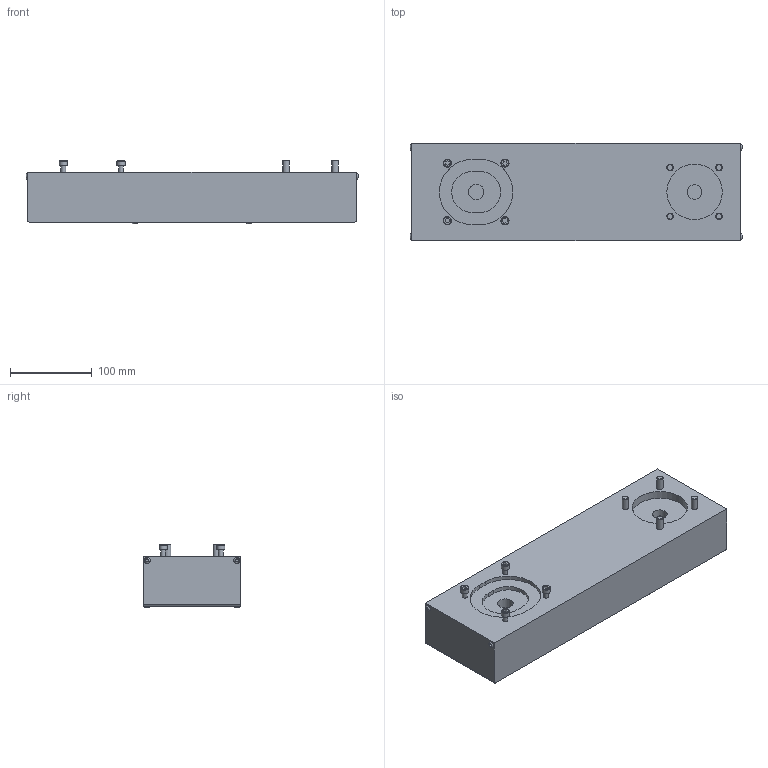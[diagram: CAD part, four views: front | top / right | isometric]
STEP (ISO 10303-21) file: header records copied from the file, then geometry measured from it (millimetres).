
FILE_DESCRIPTION(/* description */ (''),/* implementation_level */ '2;1');
FILE_NAME(/* name */ 'O:\LINEARNE ENOTE\STRANSKI POGON CTV\CTV 200 MTV 110\DUMMY MODELI\izvoz\MSD CTV 200 T1 1 84 X 84.stp',/* time_stamp */ '2019-04-24T08:20:40+02:00',/* author */ ('Hypex'),/* organization */ ('Hypex'),/* preprocessor_version */ 'ST-DEVELOPER v17',/* originating_system */ 'Autodesk Inventor 2018',/* authorisation */ '');
FILE_SCHEMA (('AUTOMOTIVE_DESIGN { 1 0 10303 214 3 1 1 }'));
Length unit declared in the file: millimetre
Products named in the file (1): MSD CTV 200 T1 1 84 X 84
Bounding box: 407.4 x 120 x 78.2 mm (x, y, z)
Volume: 2852891.5 mm3; surface area: 173916.1 mm2
Topology: 1 solids, 1 shells, 164 faces, 373 edges, 248 vertices
Faces by surface type: plane 119, cylinder 29, bspline 8, torus 4, cone 4
Full cylindrical faces by diameter (mm): 6 x4, 7.6 x8, 8 x4, 10 x4, 18 x1, 19 x1, 68 x1
Entity records: 4816 total; most frequent: CARTESIAN_POINT 994, DIRECTION 787, ORIENTED_EDGE 746, EDGE_CURVE 373, LINE 273, VECTOR 273, AXIS2_PLACEMENT_3D 257, VERTEX_POINT 248
